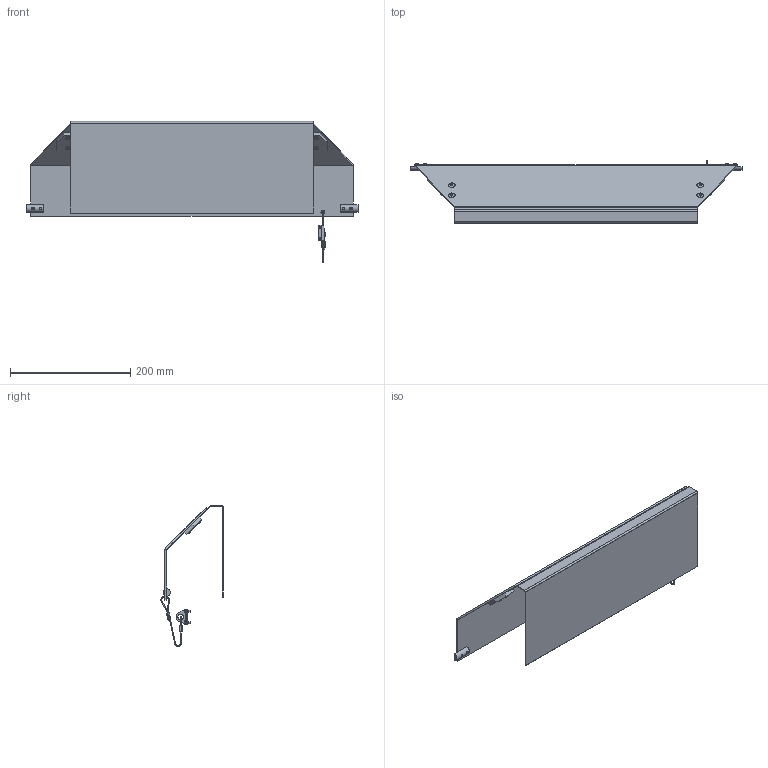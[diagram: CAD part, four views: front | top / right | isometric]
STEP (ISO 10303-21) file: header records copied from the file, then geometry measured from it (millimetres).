
FILE_DESCRIPTION((''),'2;1');
FILE_NAME('300993M_ASM','2018-01-19T',('james.horst'),(''),'PRO/ENGINEER BY PARAMETRIC TECHNOLOGY CORPORATION, 2012420','PRO/ENGINEER BY PARAMETRIC TECHNOLOGY CORPORATION, 2012420','');
FILE_SCHEMA(('CONFIG_CONTROL_DESIGN'));
Length unit declared in the file: inch
Products named in the file (11): 300843M; 300833M; 300774M; 300741M; 910408M; 930510M; 807-1086; 804-506; 807-1085; 920306M; 300993M_ASM
Assembly tree (20 placements, depth 2):
  300993M_ASM
    300843M
    300833M
    300774M  x2
    300741M  x2
    910408M  x4
    930510M  x4
    807-1086
    804-506
    807-1085  x2
    920306M  x2
Bounding box: 552.15 x 103.44 x 234.74 mm (x, y, z)
Volume: 394453 mm3; surface area: 423209.4 mm2
Topology: 20 solids, 28 shells, 400 faces, 944 edges, 596 vertices
Faces by surface type: plane 179, cylinder 141, cone 56, torus 14, bspline 10
Entity records: 7320 total; most frequent: CARTESIAN_POINT 1446, DIRECTION 1278, ORIENTED_EDGE 1080, EDGE_CURVE 548, AXIS2_PLACEMENT_3D 490, VERTEX_POINT 342, VECTOR 298, LINE 298
